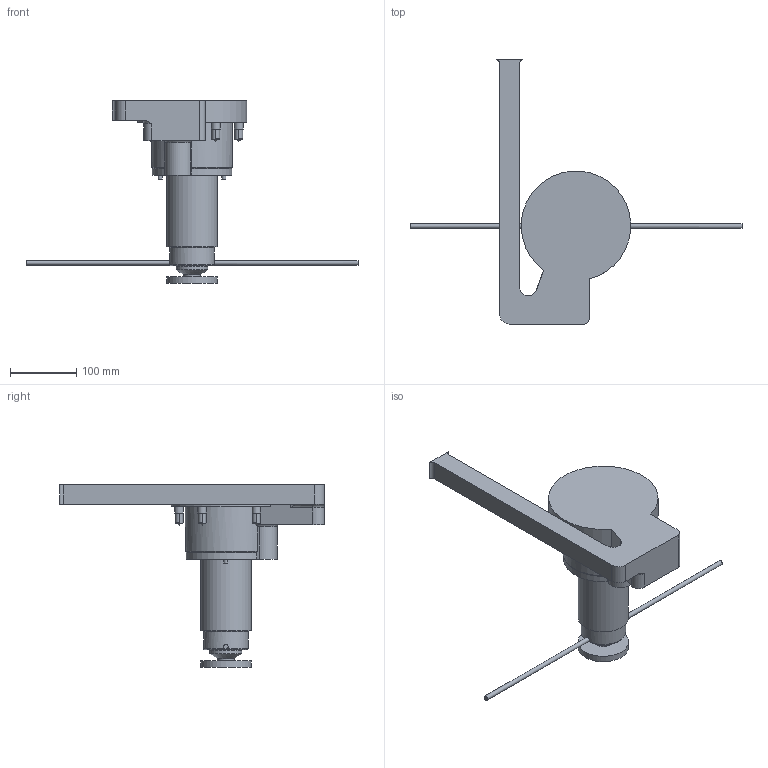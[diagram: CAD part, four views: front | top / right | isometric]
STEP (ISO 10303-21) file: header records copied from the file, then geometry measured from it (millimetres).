
FILE_DESCRIPTION( ( 'STEP AP214' ), '1' );
FILE_NAME( 'D:/PROIECTE_YUDO_2009/PROIECTE YUDO 3D/SAS/YUEU09-SAS42VV233_7/YUEU09-SAS42LVF233_7_CutOut.step', '2009-04-09T07:15:13', ( ' ' ), ( ' ' ), 'XStep 1.0', ' ', ' ' );
FILE_SCHEMA( ( 'automotive_design' ) );
Length unit declared in the file: millimetre
Products named in the file (1): 1
Bounding box: 500 x 398 x 275.5 mm (x, y, z)
Volume: 3125966.4 mm3; surface area: 226075.2 mm2
Topology: 1 solids, 1 shells, 94 faces, 225 edges, 149 vertices
Faces by surface type: plane 42, cylinder 40, cone 9, torus 3
Full cylindrical faces by diameter (mm): 6 x2, 7 x2, 11.35 x5, 13 x5, 25 x1, 48 x1, 67 x1, 76 x2
Entity records: 3420 total; most frequent: CARTESIAN_POINT 610, DIRECTION 444, ORIENTED_EDGE 360, AXIS2_PLACEMENT_3D 181, EDGE_CURVE 180, EDGE_LOOP 138, VERTEX_POINT 137, FACE_OUTER_BOUND 114
